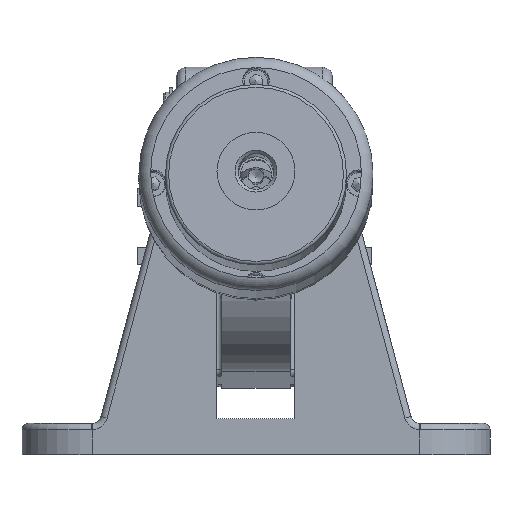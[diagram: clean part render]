
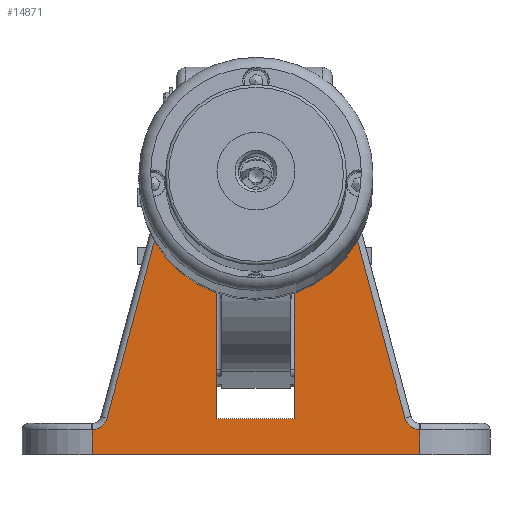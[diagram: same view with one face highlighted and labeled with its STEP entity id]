
A CAD part, front view. The second image highlights one B-rep face of the part: STEP entity #14871.
In plain terms, the highlighted planar face has unit normal (0, -1, 0).
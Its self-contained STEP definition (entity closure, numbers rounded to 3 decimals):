
#833=CIRCLE('',#15898,5.);
#838=CIRCLE('',#15907,5.);
#1677=FACE_OUTER_BOUND('',#2498,.T.);
#2498=EDGE_LOOP('',(#10263,#10264,#10265,#10266,#10267,#10268,#10269,#10270,
#10271,#10272,#10273,#10274,#10275,#10276,#10277,#10278,#10279,#10280));
#3298=LINE('',#24898,#4406);
#3313=LINE('',#24931,#4421);
#3314=LINE('',#24934,#4422);
#3331=LINE('',#24976,#4439);
#3341=LINE('',#24999,#4449);
#3379=LINE('',#25088,#4487);
#3426=LINE('',#25253,#4534);
#3436=LINE('',#25282,#4544);
#3453=LINE('',#25318,#4561);
#3482=LINE('',#25448,#4590);
#3484=LINE('',#25519,#4592);
#3486=LINE('',#25525,#4594);
#3491=LINE('',#25568,#4599);
#3493=LINE('',#25606,#4601);
#3494=LINE('',#25609,#4602);
#3497=LINE('',#25625,#4605);
#4406=VECTOR('',#17840,10.);
#4421=VECTOR('',#17875,10.);
#4422=VECTOR('',#17878,10.);
#4439=VECTOR('',#17917,10.);
#4449=VECTOR('',#17943,10.);
#4487=VECTOR('',#18005,10.);
#4534=VECTOR('',#18120,10.);
#4544=VECTOR('',#18144,10.);
#4561=VECTOR('',#18173,10.);
#4590=VECTOR('',#18268,10.);
#4592=VECTOR('',#18300,10.);
#4594=VECTOR('',#18306,10.);
#4599=VECTOR('',#18327,10.);
#4601=VECTOR('',#18349,10.);
#4602=VECTOR('',#18354,10.);
#4605=VECTOR('',#18375,10.);
#5728=VERTEX_POINT('',#24889);
#5731=VERTEX_POINT('',#24897);
#5739=VERTEX_POINT('',#24929);
#5740=VERTEX_POINT('',#24933);
#5753=VERTEX_POINT('',#24969);
#5754=VERTEX_POINT('',#24974);
#5759=VERTEX_POINT('',#24998);
#5798=VERTEX_POINT('',#25087);
#5861=VERTEX_POINT('',#25250);
#5862=VERTEX_POINT('',#25252);
#5874=VERTEX_POINT('',#25281);
#5887=VERTEX_POINT('',#25316);
#5920=VERTEX_POINT('',#25508);
#5921=VERTEX_POINT('',#25515);
#5923=VERTEX_POINT('',#25523);
#5927=VERTEX_POINT('',#25536);
#5928=VERTEX_POINT('',#25538);
#5931=VERTEX_POINT('',#25605);
#7275=EDGE_CURVE('',#5731,#5728,#3298,.T.);
#7293=EDGE_CURVE('',#5728,#5739,#3313,.T.);
#7294=EDGE_CURVE('',#5740,#5731,#3314,.T.);
#7316=EDGE_CURVE('',#5753,#5754,#3331,.T.);
#7327=EDGE_CURVE('',#5759,#5753,#3341,.T.);
#7372=EDGE_CURVE('',#5798,#5740,#3379,.T.);
#7446=EDGE_CURVE('',#5862,#5861,#3426,.T.);
#7461=EDGE_CURVE('',#5874,#5759,#3436,.T.);
#7481=EDGE_CURVE('',#5739,#5887,#3453,.T.);
#7530=EDGE_CURVE('',#5754,#5862,#3482,.T.);
#7543=EDGE_CURVE('',#5920,#5921,#833,.T.);
#7544=EDGE_CURVE('',#5921,#5887,#3484,.T.);
#7547=EDGE_CURVE('',#5923,#5920,#3486,.T.);
#7555=EDGE_CURVE('',#5928,#5927,#838,.T.);
#7558=EDGE_CURVE('',#5874,#5928,#3491,.T.);
#7566=EDGE_CURVE('',#5931,#5927,#3493,.T.);
#7568=EDGE_CURVE('',#5861,#5798,#3494,.T.);
#7575=EDGE_CURVE('',#5931,#5923,#3497,.T.);
#10263=ORIENTED_EDGE('',*,*,#7543,.F.);
#10264=ORIENTED_EDGE('',*,*,#7547,.F.);
#10265=ORIENTED_EDGE('',*,*,#7575,.F.);
#10266=ORIENTED_EDGE('',*,*,#7566,.T.);
#10267=ORIENTED_EDGE('',*,*,#7555,.F.);
#10268=ORIENTED_EDGE('',*,*,#7558,.F.);
#10269=ORIENTED_EDGE('',*,*,#7461,.T.);
#10270=ORIENTED_EDGE('',*,*,#7327,.T.);
#10271=ORIENTED_EDGE('',*,*,#7316,.T.);
#10272=ORIENTED_EDGE('',*,*,#7530,.T.);
#10273=ORIENTED_EDGE('',*,*,#7446,.T.);
#10274=ORIENTED_EDGE('',*,*,#7568,.T.);
#10275=ORIENTED_EDGE('',*,*,#7372,.T.);
#10276=ORIENTED_EDGE('',*,*,#7294,.T.);
#10277=ORIENTED_EDGE('',*,*,#7275,.T.);
#10278=ORIENTED_EDGE('',*,*,#7293,.T.);
#10279=ORIENTED_EDGE('',*,*,#7481,.T.);
#10280=ORIENTED_EDGE('',*,*,#7544,.F.);
#13650=PLANE('',#15930);
#14871=ADVANCED_FACE('',(#1677),#13650,.T.);
#15898=AXIS2_PLACEMENT_3D('',#25517,#18296,#18297);
#15907=AXIS2_PLACEMENT_3D('',#25540,#18321,#18322);
#15930=AXIS2_PLACEMENT_3D('',#25624,#18373,#18374);
#17840=DIRECTION('',(-1.,0.,0.));
#17875=DIRECTION('',(-1.,0.,0.));
#17878=DIRECTION('',(-1.,0.,0.));
#17917=DIRECTION('',(-1.,0.,0.));
#17943=DIRECTION('',(-1.,0.,0.));
#18005=DIRECTION('',(0.,0.,1.));
#18120=DIRECTION('',(0.,0.,-1.));
#18144=DIRECTION('',(0.,0.,1.));
#18173=DIRECTION('',(0.,0.,-1.));
#18268=DIRECTION('',(-1.,0.,0.));
#18296=DIRECTION('center_axis',(0.,-1.,0.));
#18297=DIRECTION('ref_axis',(0.619,0.,-0.785));
#18300=DIRECTION('',(0.259,0.,0.966));
#18306=DIRECTION('',(0.,0.,1.));
#18321=DIRECTION('center_axis',(0.,-1.,0.));
#18322=DIRECTION('ref_axis',(-0.619,0.,-0.785));
#18327=DIRECTION('',(0.259,0.,-0.966));
#18349=DIRECTION('',(0.,0.,1.));
#18354=DIRECTION('',(-1.,0.,0.));
#18373=DIRECTION('center_axis',(0.,-1.,0.));
#18374=DIRECTION('ref_axis',(0.,0.,
-1.));
#18375=DIRECTION('',(-1.,0.,0.));
#24889=CARTESIAN_POINT('',(-27.,-22.239,116.27));
#24897=CARTESIAN_POINT('',(-14.,-22.239,116.27));
#24898=CARTESIAN_POINT('',(52.5,-22.239,116.27));
#24929=CARTESIAN_POINT('',(-27.5,-22.239,116.27));
#24931=CARTESIAN_POINT('',(52.5,-22.239,116.27));
#24933=CARTESIAN_POINT('',(-12.5,-22.239,116.27));
#24934=CARTESIAN_POINT('',(52.5,-22.239,116.27));
#24969=CARTESIAN_POINT('',(27.,-22.239,116.27));
#24974=CARTESIAN_POINT('',(14.,-22.239,116.27));
#24976=CARTESIAN_POINT('',(52.5,-22.239,116.27));
#24998=CARTESIAN_POINT('',(27.5,-22.239,116.27));
#24999=CARTESIAN_POINT('',(52.5,-22.239,116.27));
#25087=CARTESIAN_POINT('',(-12.5,-22.239,17.77));
#25088=CARTESIAN_POINT('',(-12.5,-22.239,61.27));
#25250=CARTESIAN_POINT('',(12.5,-22.239,17.77));
#25252=CARTESIAN_POINT('',(12.5,-22.239,116.27));
#25253=CARTESIAN_POINT('',(12.5,-22.239,12.02));
#25281=CARTESIAN_POINT('',(27.5,-22.239,93.543));
#25282=CARTESIAN_POINT('',(27.5,-22.239,61.27));
#25316=CARTESIAN_POINT('',(-27.5,-22.239,93.543));
#25318=CARTESIAN_POINT('',(-27.5,-22.239,53.77));
#25448=CARTESIAN_POINT('',(52.5,-22.239,116.27));
#25508=CARTESIAN_POINT('',(-52.5,-22.239,14.271));
#25515=CARTESIAN_POINT('',(-47.748,-22.239,17.976));
#25517=CARTESIAN_POINT('Origin',(-52.578,-22.239,19.27));
#25519=CARTESIAN_POINT('',(-45.854,-22.239,25.046));
#25523=CARTESIAN_POINT('',(-52.5,-22.239,6.27));
#25525=CARTESIAN_POINT('',(-52.5,-22.239,6.27));
#25536=CARTESIAN_POINT('',(52.5,-22.239,14.271));
#25538=CARTESIAN_POINT('',(47.748,-22.239,17.976));
#25540=CARTESIAN_POINT('Origin',(52.578,-22.239,19.27));
#25568=CARTESIAN_POINT('',(38.28,-22.239,53.309));
#25605=CARTESIAN_POINT('',(52.5,-22.239,6.27));
#25606=CARTESIAN_POINT('',(52.5,-22.239,6.27));
#25609=CARTESIAN_POINT('',(27.955,-22.239,17.77));
#25624=CARTESIAN_POINT('Origin',(52.5,-22.239,6.27));
#25625=CARTESIAN_POINT('',(52.5,-22.239,6.27));
